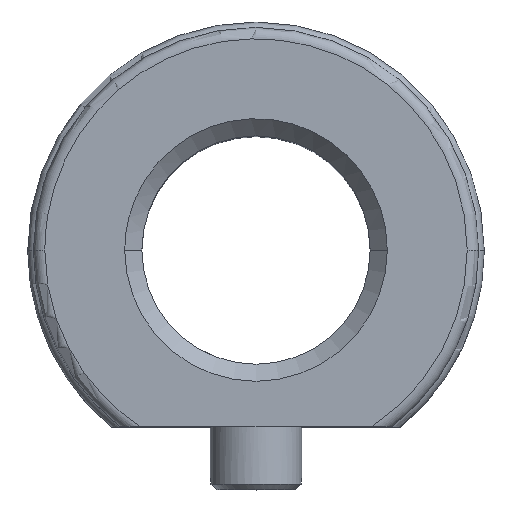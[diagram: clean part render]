
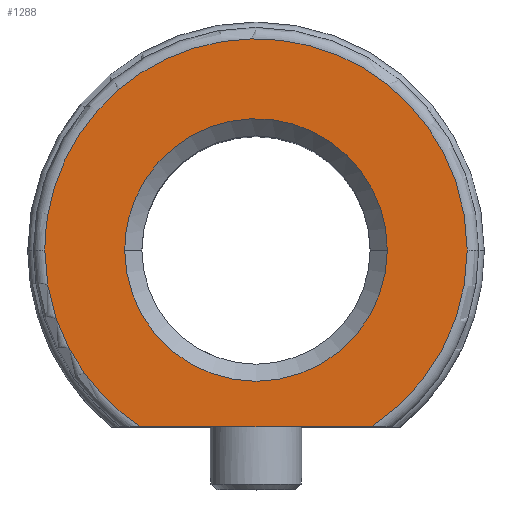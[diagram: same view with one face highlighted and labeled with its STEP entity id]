
A CAD part, top view. The second image highlights one B-rep face of the part: STEP entity #1288.
In plain terms, the highlighted planar face has unit normal (0, 0, 1).
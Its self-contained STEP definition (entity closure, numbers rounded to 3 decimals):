
#512=CARTESIAN_POINT('Vertex',(10.1,-15.5,20.)) ;
#515=CARTESIAN_POINT('Line Origine',(0.,-15.5,20.)) ;
#519=CARTESIAN_POINT('Vertex',(-10.1,-15.5,20.)) ;
#633=CARTESIAN_POINT('Vertex',(-11.5,0.,20.)) ;
#636=CARTESIAN_POINT('Axis2P3D Location',(0.,0.,20.)) ;
#640=CARTESIAN_POINT('Vertex',(11.5,0.,20.)) ;
#1190=CARTESIAN_POINT('Vertex',(18.5,0.,20.)) ;
#1193=CARTESIAN_POINT('Axis2P3D Location',(0.,0.,20.)) ;
#1205=CARTESIAN_POINT('Axis2P3D Location',(-11.5,0.,20.)) ;
#1211=CARTESIAN_POINT('Control Point',(18.5,0.,20.)) ;
#1212=CARTESIAN_POINT('Control Point',(18.5,1.686,20.)) ;
#1213=CARTESIAN_POINT('Control Point',(18.308,3.371,20.)) ;
#1214=CARTESIAN_POINT('Control Point',(17.924,5.028,20.)) ;
#1215=CARTESIAN_POINT('Control Point',(16.785,8.224,20.)) ;
#1216=CARTESIAN_POINT('Control Point',(14.957,11.083,20.)) ;
#1217=CARTESIAN_POINT('Control Point',(13.883,12.402,20.)) ;
#1218=CARTESIAN_POINT('Control Point',(11.455,14.771,20.)) ;
#1219=CARTESIAN_POINT('Control Point',(8.555,16.534,20.)) ;
#1220=CARTESIAN_POINT('Control Point',(7.011,17.245,20.)) ;
#1221=CARTESIAN_POINT('Control Point',(3.787,18.304,20.)) ;
#1222=CARTESIAN_POINT('Control Point',(0.408,18.611,20.)) ;
#1223=CARTESIAN_POINT('Control Point',(-1.292,18.571,20.)) ;
#1224=CARTESIAN_POINT('Control Point',(-4.653,18.104,20.)) ;
#1225=CARTESIAN_POINT('Control Point',(-7.823,16.892,20.)) ;
#1226=CARTESIAN_POINT('Control Point',(-9.332,16.108,20.)) ;
#1227=CARTESIAN_POINT('Control Point',(-12.144,14.21,20.)) ;
#1228=CARTESIAN_POINT('Control Point',(-14.458,11.727,20.)) ;
#1229=CARTESIAN_POINT('Control Point',(-15.467,10.359,20.)) ;
#1230=CARTESIAN_POINT('Control Point',(-17.069,7.57,20.)) ;
#1231=CARTESIAN_POINT('Control Point',(-18.038,4.508,20.)) ;
#1232=CARTESIAN_POINT('Control Point',(-18.346,3.019,20.)) ;
#1233=CARTESIAN_POINT('Control Point',(-18.5,1.51,20.)) ;
#1234=CARTESIAN_POINT('Control Point',(-18.5,0.,20.)) ;
#1235=CARTESIAN_POINT('Vertex',(-18.5,0.,20.)) ;
#1239=CARTESIAN_POINT('Control Point',(-18.5,0.,20.)) ;
#1240=CARTESIAN_POINT('Control Point',(-18.5,-1.686,20.)) ;
#1241=CARTESIAN_POINT('Control Point',(-18.308,-3.371,20.)) ;
#1242=CARTESIAN_POINT('Control Point',(-17.924,-5.028,20.)) ;
#1243=CARTESIAN_POINT('Control Point',(-16.785,-8.224,20.)) ;
#1244=CARTESIAN_POINT('Control Point',(-14.957,-11.083,20.)) ;
#1245=CARTESIAN_POINT('Control Point',(-13.883,-12.402,20.)) ;
#1246=CARTESIAN_POINT('Control Point',(-12.45,-13.8,20.)) ;
#1247=CARTESIAN_POINT('Control Point',(-10.853,-14.987,20.)) ;
#1248=CARTESIAN_POINT('Control Point',(-10.605,-15.163,20.)) ;
#1249=CARTESIAN_POINT('Control Point',(-10.354,-15.334,20.)) ;
#1250=CARTESIAN_POINT('Control Point',(-10.1,-15.5,20.)) ;
#1259=CARTESIAN_POINT('Control Point',(11.5,0.,20.)) ;
#1260=CARTESIAN_POINT('Control Point',(11.5,1.163,20.)) ;
#1261=CARTESIAN_POINT('Control Point',(11.353,2.326,20.)) ;
#1262=CARTESIAN_POINT('Control Point',(11.059,3.464,20.)) ;
#1263=CARTESIAN_POINT('Control Point',(10.19,5.641,20.)) ;
#1264=CARTESIAN_POINT('Control Point',(8.806,7.534,20.)) ;
#1265=CARTESIAN_POINT('Control Point',(7.997,8.387,20.)) ;
#1266=CARTESIAN_POINT('Control Point',(6.182,9.871,20.)) ;
#1267=CARTESIAN_POINT('Control Point',(4.055,10.856,20.)) ;
#1268=CARTESIAN_POINT('Control Point',(2.934,11.211,20.)) ;
#1269=CARTESIAN_POINT('Control Point',(0.628,11.63,20.)) ;
#1270=CARTESIAN_POINT('Control Point',(-1.71,11.462,20.)) ;
#1271=CARTESIAN_POINT('Control Point',(-2.863,11.23,20.)) ;
#1272=CARTESIAN_POINT('Control Point',(-5.084,10.479,20.)) ;
#1273=CARTESIAN_POINT('Control Point',(-7.048,9.199,20.)) ;
#1274=CARTESIAN_POINT('Control Point',(-7.944,8.438,20.)) ;
#1275=CARTESIAN_POINT('Control Point',(-9.523,6.705,20.)) ;
#1276=CARTESIAN_POINT('Control Point',(-10.622,4.635,20.)) ;
#1277=CARTESIAN_POINT('Control Point',(-11.037,3.535,20.)) ;
#1278=CARTESIAN_POINT('Control Point',(-11.366,2.151,20.)) ;
#1279=CARTESIAN_POINT('Control Point',(-11.48,0.744,20.)) ;
#1280=CARTESIAN_POINT('Control Point',(-11.493,0.496,20.)) ;
#1281=CARTESIAN_POINT('Control Point',(-11.5,0.248,20.)) ;
#1282=CARTESIAN_POINT('Control Point',(-11.5,0.,20.)) ;
#516=DIRECTION('Vector Direction',(1.,0.,0.)) ;
#637=DIRECTION('Axis2P3D Direction',(0.,-0.,1.)) ;
#1194=DIRECTION('Axis2P3D Direction',(0.,-0.,1.)) ;
#1206=DIRECTION('Axis2P3D Direction',(0.,0.,-1.)) ;
#1207=DIRECTION('Axis2P3D XDirection',(-1.,0.,-0.)) ;
#638=AXIS2_PLACEMENT_3D('Circle Axis2P3D',#636,#637,$) ;
#1195=AXIS2_PLACEMENT_3D('Circle Axis2P3D',#1193,#1194,$) ;
#1208=AXIS2_PLACEMENT_3D('Plane Axis2P3D',#1205,#1206,#1207) ;
#1253=ORIENTED_EDGE('',*,*,#1197,.T.) ;
#1254=ORIENTED_EDGE('',*,*,#1237,.T.) ;
#1255=ORIENTED_EDGE('',*,*,#1251,.T.) ;
#1256=ORIENTED_EDGE('',*,*,#521,.T.) ;
#1285=ORIENTED_EDGE('',*,*,#1283,.F.) ;
#1286=ORIENTED_EDGE('',*,*,#642,.F.) ;
#1287=FACE_BOUND('',#1284,.T.) ;
#517=VECTOR('Line Direction',#516,1.) ;
#1288=ADVANCED_FACE('744-20 sol1',(#1257,#1287),#1209,.F.) ;
#1210=B_SPLINE_CURVE_WITH_KNOTS('',5,(#1211,#1212,#1213,#1214,#1215,#1216,#1217,#1218,#1219,#1220,#1221,#1222,#1223,#1224,#1225,#1226,#1227,#1228,#1229,#1230,#1231,#1232,#1233,#1234),.UNSPECIFIED.,.F.,.U.,(6,3,3,3,3,3,3,6),(0.,11.92,23.839,35.759,47.679,59.598,71.518,82.193),.UNSPECIFIED.) ;
#1238=B_SPLINE_CURVE_WITH_KNOTS('',5,(#1239,#1240,#1241,#1242,#1243,#1244,#1245,#1246,#1247,#1248,#1249,#1250),.UNSPECIFIED.,.F.,.U.,(6,3,3,6),(0.,11.92,23.839,25.987),.UNSPECIFIED.) ;
#1258=B_SPLINE_CURVE_WITH_KNOTS('',5,(#1259,#1260,#1261,#1262,#1263,#1264,#1265,#1266,#1267,#1268,#1269,#1270,#1271,#1272,#1273,#1274,#1275,#1276,#1277,#1278,#1279,#1280,#1281,#1282),.UNSPECIFIED.,.F.,.U.,(6,3,3,3,3,3,3,6),(0.,8.223,16.446,24.669,32.892,41.115,49.338,51.092),.UNSPECIFIED.) ;
#639=CIRCLE('generated circle',#638,11.5) ;
#1196=CIRCLE('generated circle',#1195,18.5) ;
#521=EDGE_CURVE('',#520,#513,#518,.T.) ;
#642=EDGE_CURVE('',#634,#641,#639,.T.) ;
#1197=EDGE_CURVE('',#513,#1191,#1196,.T.) ;
#1237=EDGE_CURVE('',#1191,#1236,#1210,.T.) ;
#1251=EDGE_CURVE('',#1236,#520,#1238,.T.) ;
#1283=EDGE_CURVE('',#641,#634,#1258,.T.) ;
#1252=EDGE_LOOP('',(#1253,#1254,#1255,#1256)) ;
#1284=EDGE_LOOP('',(#1285,#1286)) ;
#1257=FACE_OUTER_BOUND('',#1252,.T.) ;
#518=LINE('Line',#515,#517) ;
#1209=PLANE('Plane',#1208) ;
#513=VERTEX_POINT('',#512) ;
#520=VERTEX_POINT('',#519) ;
#634=VERTEX_POINT('',#633) ;
#641=VERTEX_POINT('',#640) ;
#1191=VERTEX_POINT('',#1190) ;
#1236=VERTEX_POINT('',#1235) ;
